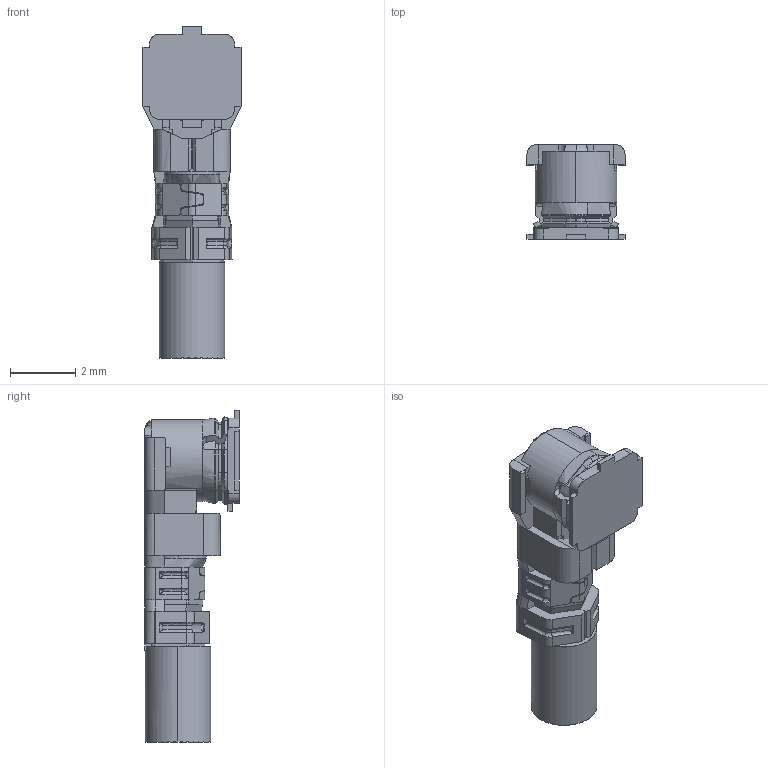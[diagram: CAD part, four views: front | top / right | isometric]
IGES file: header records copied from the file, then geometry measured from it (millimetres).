
Start section: SolidWorks IGES file using analytic representation for surfaces
Bounding box: 3 x 2.9 x 10.15 mm (x, y, z)
Surface area: 120.2 mm2 (no closed solid volume)
Topology: 0 solids, 0 shells, 479 faces, 3641 edges, 3638 vertices
Faces by surface type: bspline 309, revolution 170
